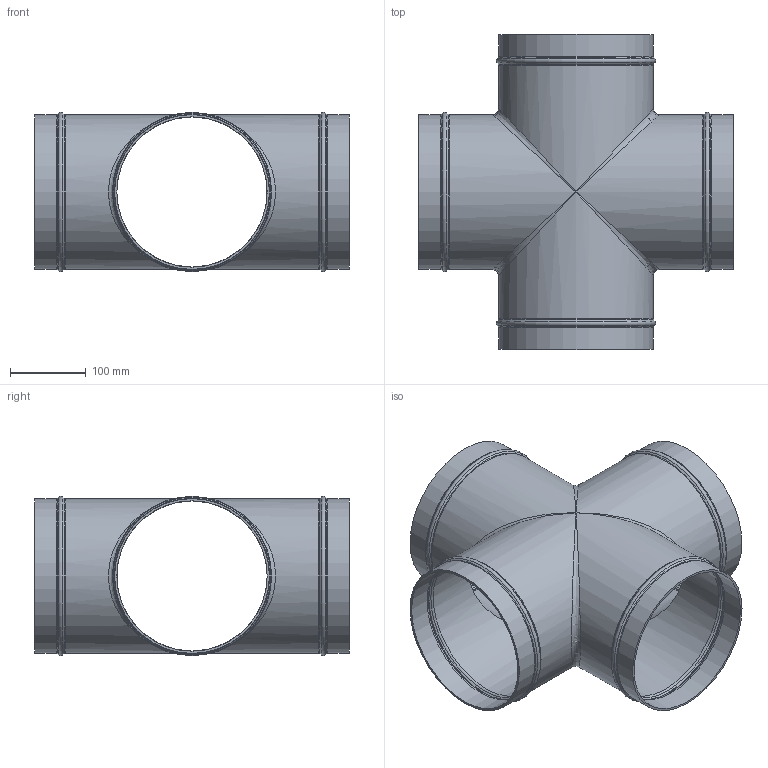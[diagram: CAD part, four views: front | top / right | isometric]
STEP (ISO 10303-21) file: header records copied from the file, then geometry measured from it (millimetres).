
FILE_DESCRIPTION(/* description */ (''),/* implementation_level */ '2;1');
FILE_NAME(/* name */ '30214110001.stp',/* time_stamp */ '2024-08-28T13:19:49+08:00',/* author */ (''),/* organization */ (''),/* preprocessor_version */ 'ST-DEVELOPER v14',/* originating_system */ 'SIEMENS PLM Software NX 8.0',/* authorisation */ '');
FILE_SCHEMA (('CONFIG_CONTROL_DESIGN'));
Length unit declared in the file: millimetre
Products named in the file (1): 30214110001
Bounding box: 415 x 415 x 210 mm (x, y, z)
Volume: 1109295.2 mm3; surface area: 740767.6 mm2
Topology: 1 solids, 1 shells, 64 faces, 139 edges, 67 vertices
Faces by surface type: torus 24, cylinder 16, cone 16, plane 4, bspline 4
Full cylindrical faces by diameter (mm): 198 x8, 204 x8
Entity records: 1680 total; most frequent: CARTESIAN_POINT 501, DIRECTION 258, ORIENTED_EDGE 136, AXIS2_PLACEMENT_3D 129, EDGE_LOOP 124, FACE_BOUND 120, EDGE_CURVE 68, ADVANCED_FACE 64
